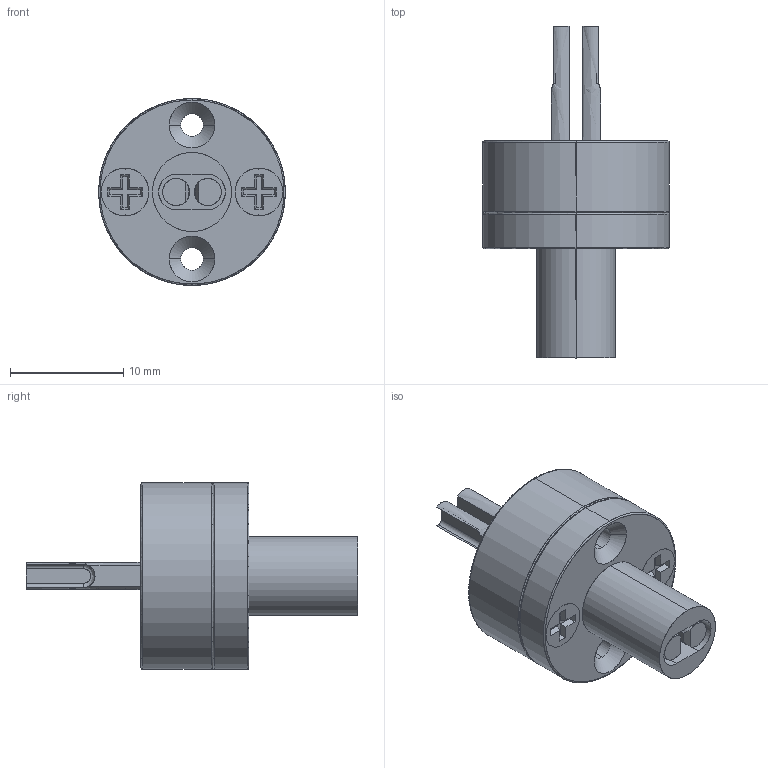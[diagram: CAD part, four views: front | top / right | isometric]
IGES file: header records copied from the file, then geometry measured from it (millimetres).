
Start section: SolidWorks IGES file using analytic representation for surfaces
Global section: file name: \\CODA-VM-SBS\RedirectedFolders\georged\My Documents\CODA CAD FILES\SPECIALIST TEST PRODUCTS\KELVIN TEST PINS & FIXTURE KITS\NEWHIGHPOWER\CAD\KWPF25.IGS; native system: SolidWorks 2024; preprocessor: SolidWorks 2024; author: GeorgeD; date: 251002.102342; units: inch
Bounding box: 16.51 x 29.34 x 16.51 mm (x, y, z)
Surface area: 2533.3 mm2 (no closed solid volume)
Topology: 0 solids, 0 shells, 147 faces, 1838 edges, 1838 vertices
Faces by surface type: bspline 83, revolution 64
